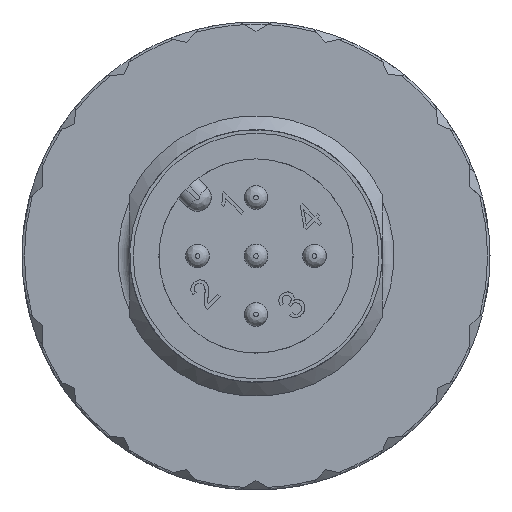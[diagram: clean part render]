
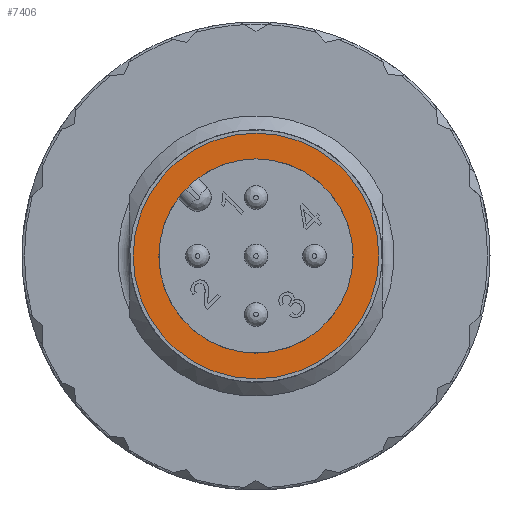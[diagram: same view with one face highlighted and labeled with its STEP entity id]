
A CAD part, front view. The second image highlights one B-rep face of the part: STEP entity #7406.
In plain terms, the highlighted planar face has unit normal (0, -1, 0).
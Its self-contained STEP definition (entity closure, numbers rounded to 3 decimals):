
#318=PLANE('',#8069);
#1886=FACE_BOUND('',#2595,.T.);
#2168=FACE_OUTER_BOUND('',#2594,.T.);
#2594=EDGE_LOOP('',(#6329));
#2595=EDGE_LOOP('',(#6330));
#2999=CIRCLE('',#8070,5.25);
#3000=CIRCLE('',#8071,4.15);
#3635=VERTEX_POINT('',#12626);
#3636=VERTEX_POINT('',#12628);
#4575=EDGE_CURVE('',#3635,#3635,#2999,.T.);
#4576=EDGE_CURVE('',#3636,#3636,#3000,.T.);
#6329=ORIENTED_EDGE('',*,*,#4575,.F.);
#6330=ORIENTED_EDGE('',*,*,#4576,.T.);
#7406=ADVANCED_FACE('',(#2168,#1886),#318,.T.);
#8069=AXIS2_PLACEMENT_3D('',#12625,#9548,#9549);
#8070=AXIS2_PLACEMENT_3D('',#12627,#9550,#9551);
#8071=AXIS2_PLACEMENT_3D('',#12629,#9552,#9553);
#9548=DIRECTION('center_axis',(0.,-1.,0.));
#9549=DIRECTION('ref_axis',(0.,0.,-1.));
#9550=DIRECTION('center_axis',(0.,1.,0.));
#9551=DIRECTION('ref_axis',(0.,0.,1.));
#9552=DIRECTION('center_axis',(0.,1.,0.));
#9553=DIRECTION('ref_axis',(0.,0.,1.));
#12625=CARTESIAN_POINT('Origin',(0.,-19.2,4.7));
#12626=CARTESIAN_POINT('',(0.,-19.2,5.25));
#12627=CARTESIAN_POINT('Origin',(0.,-19.2,0.));
#12628=CARTESIAN_POINT('',(0.,-19.2,4.15));
#12629=CARTESIAN_POINT('Origin',(0.,-19.2,0.));
